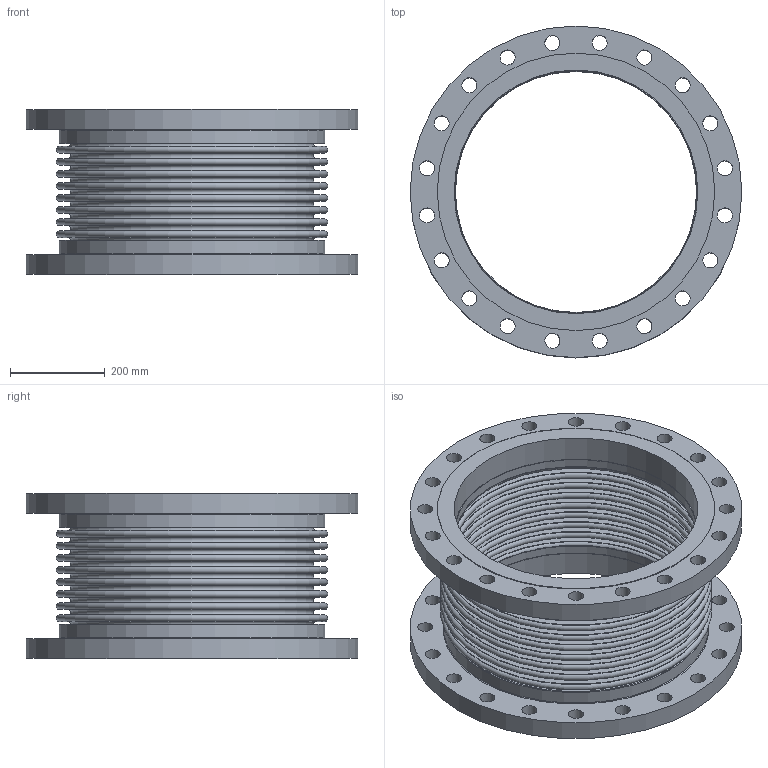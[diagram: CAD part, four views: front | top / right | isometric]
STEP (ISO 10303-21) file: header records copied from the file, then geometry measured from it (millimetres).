
FILE_DESCRIPTION(/* description */ ('EXPANSION JOINT,SINGLE, FLANGED ENDS,20 INCH','CAx-IF Rec.Pracs.---Representation and Presentation of Product Manufacturing Information (PMI)---4.0---2014-10-13'),/* implementation_level */ '2;1');
FILE_NAME(/* name */ 'US-20-8-85S-FLANGED ENDS.stp',/* time_stamp */ '2026-07-31T18:01:37-05:00',/* author */ ('Guadalupe'),/* organization */ (''),/* preprocessor_version */ 'ST-DEVELOPER v20.1',/* originating_system */ 'Autodesk Inventor 2026',/* authorisation */ '');
FILE_SCHEMA (('AP242_MANAGED_MODEL_BASED_3D_ENGINEERING_MIM_LF { 1 0 10303 442 2 1 4 }'));
Length unit declared in the file: inch
Products named in the file (3): 20-85S; 20-85S-02; 20-85S-01
Assembly tree (3 placements, depth 2):
  20-85S
    20-85S-02  x2
    20-85S-01
Bounding box: 698.5 x 698.5 x 349 mm (x, y, z)
Volume: 17054809.2 mm3; surface area: 3512922.6 mm2
Topology: 5 solids, 5 shells, 136 faces, 270 edges, 180 vertices
Faces by surface type: cylinder 52, plane 46, torus 38
Full cylindrical faces by diameter (mm): 31.75 x40, 508 x2, 510.438 x2, 513.08 x2, 558.8 x2, 584.2 x2, 698.5 x2
Entity records: 3026 total; most frequent: DIRECTION 606, CARTESIAN_POINT 449, ORIENTED_EDGE 384, AXIS2_PLACEMENT_3D 289, EDGE_CURVE 192, EDGE_LOOP 188, CIRCLE 164, VERTEX_POINT 128
